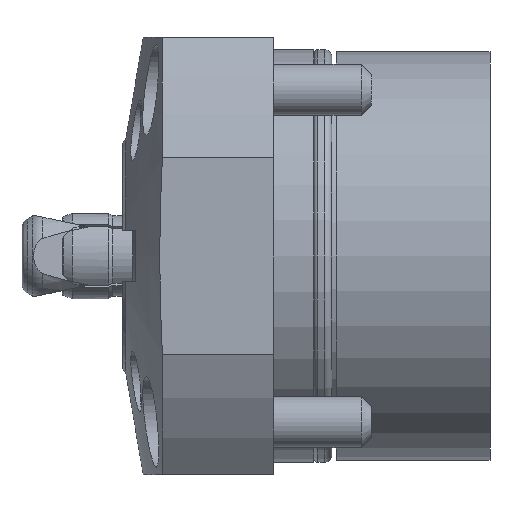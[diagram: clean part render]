
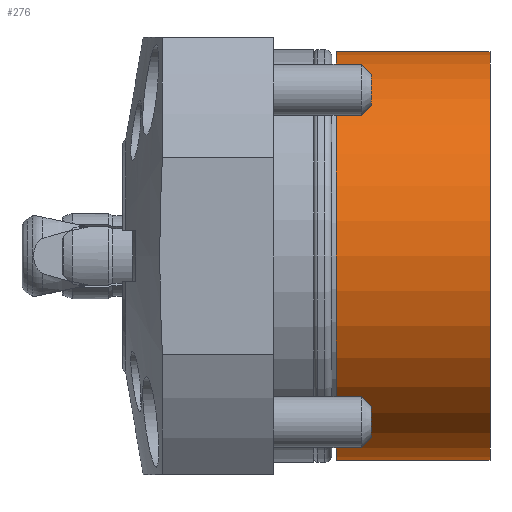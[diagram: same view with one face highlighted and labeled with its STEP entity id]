
A CAD part, left-side view. The second image highlights one B-rep face of the part: STEP entity #276.
In plain terms, the highlighted cylindrical face has radius 20.3 mm (diameter 40.6 mm), a partial arc.
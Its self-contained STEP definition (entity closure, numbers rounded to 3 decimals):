
#117 = EDGE_CURVE ( 'NONE', #192, #121, #1166, .T. ) ;
#121 = VERTEX_POINT ( 'NONE', #1158 ) ;
#158 = EDGE_CURVE ( 'NONE', #177, #178, #1210, .T. ) ;
#177 = VERTEX_POINT ( 'NONE', #1244 ) ;
#178 = VERTEX_POINT ( 'NONE', #1243 ) ;
#192 = VERTEX_POINT ( 'NONE', #1288 ) ;
#217 = ORIENTED_EDGE ( 'NONE', *, *, #158, .F. ) ;
#225 = EDGE_LOOP ( 'NONE', ( #217, #258, #277, #249 ) ) ;
#229 = EDGE_CURVE ( 'NONE', #178, #121, #1354, .T. ) ;
#243 = EDGE_CURVE ( 'NONE', #177, #192, #1336, .T. ) ;
#249 = ORIENTED_EDGE ( 'NONE', *, *, #229, .F. ) ;
#258 = ORIENTED_EDGE ( 'NONE', *, *, #243, .T. ) ;
#276 = ADVANCED_FACE ( 'NONE', ( #1415 ), #1404, .T. ) ;
#277 = ORIENTED_EDGE ( 'NONE', *, *, #117, .T. ) ;
#1143 = DIRECTION ( 'NONE',  ( 0., 1., 0. ) ) ;
#1144 = VECTOR ( 'NONE', #1143, 1000. ) ;
#1145 = CARTESIAN_POINT ( 'NONE',  ( 0., 33.82, 20.3 ) ) ;
#1158 = CARTESIAN_POINT ( 'NONE',  ( 0., 15.3, 20.3 ) ) ;
#1166 = LINE ( 'NONE', #1145, #1144 ) ;
#1202 = DIRECTION ( 'NONE',  ( 0., 1., 0. ) ) ;
#1203 = VECTOR ( 'NONE', #1202, 1000. ) ;
#1204 = CARTESIAN_POINT ( 'NONE',  ( 0., 33.82, -20.3 ) ) ;
#1210 = LINE ( 'NONE', #1204, #1203 ) ;
#1243 = CARTESIAN_POINT ( 'NONE',  ( 0., 15.3, -20.3 ) ) ;
#1244 = CARTESIAN_POINT ( 'NONE',  ( 0., 0., -20.3 ) ) ;
#1288 = CARTESIAN_POINT ( 'NONE',  ( 0., 0., 20.3 ) ) ;
#1336 = CIRCLE ( 'NONE', #1374, 20.3 ) ;
#1344 = DIRECTION ( 'NONE',  ( 0., 0., 1. ) ) ;
#1345 = DIRECTION ( 'NONE',  ( 0., 1., 0. ) ) ;
#1346 = CARTESIAN_POINT ( 'NONE',  ( 0., 15.3, 0. ) ) ;
#1351 = AXIS2_PLACEMENT_3D ( 'NONE', #1346, #1345, #1344 ) ;
#1354 = CIRCLE ( 'NONE', #1351, 20.3 ) ;
#1372 = DIRECTION ( 'NONE',  ( 0., 0., 1. ) ) ;
#1373 = DIRECTION ( 'NONE',  ( 0., 1., 0. ) ) ;
#1374 = AXIS2_PLACEMENT_3D ( 'NONE', #1382, #1373, #1372 ) ;
#1382 = CARTESIAN_POINT ( 'NONE',  ( 0., 0., 0. ) ) ;
#1390 = DIRECTION ( 'NONE',  ( 0., 0., 1. ) ) ;
#1391 = DIRECTION ( 'NONE',  ( 0., 1., 0. ) ) ;
#1392 = CARTESIAN_POINT ( 'NONE',  ( 0., 33.82, 0. ) ) ;
#1393 = AXIS2_PLACEMENT_3D ( 'NONE', #1392, #1391, #1390 ) ;
#1404 = CYLINDRICAL_SURFACE ( 'NONE', #1393, 20.3 ) ;
#1415 = FACE_OUTER_BOUND ( 'NONE', #225, .T. ) ;
